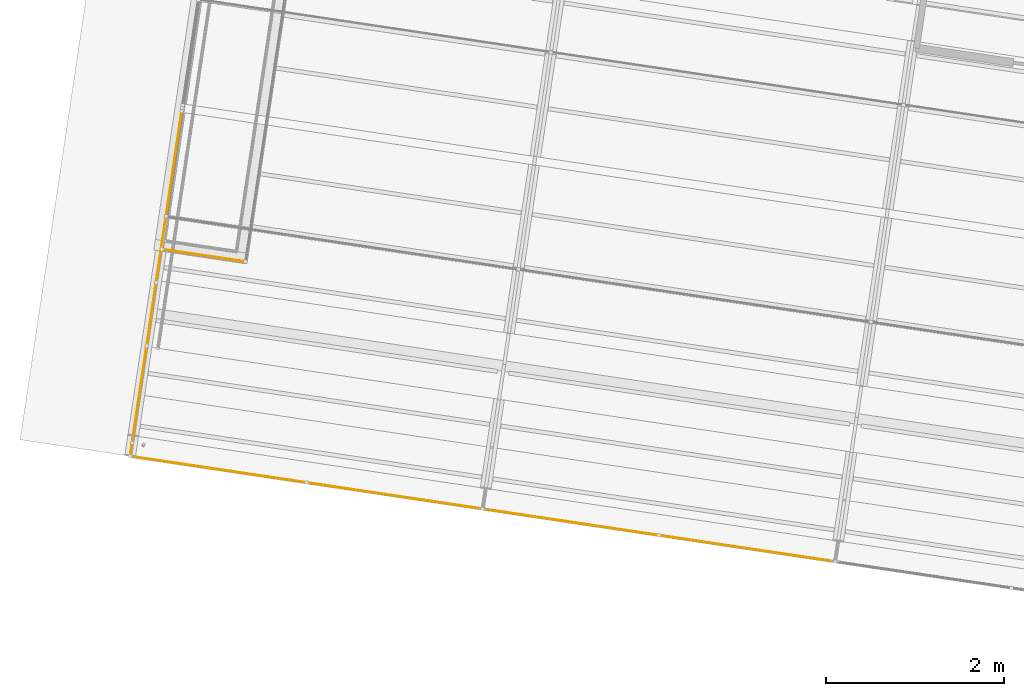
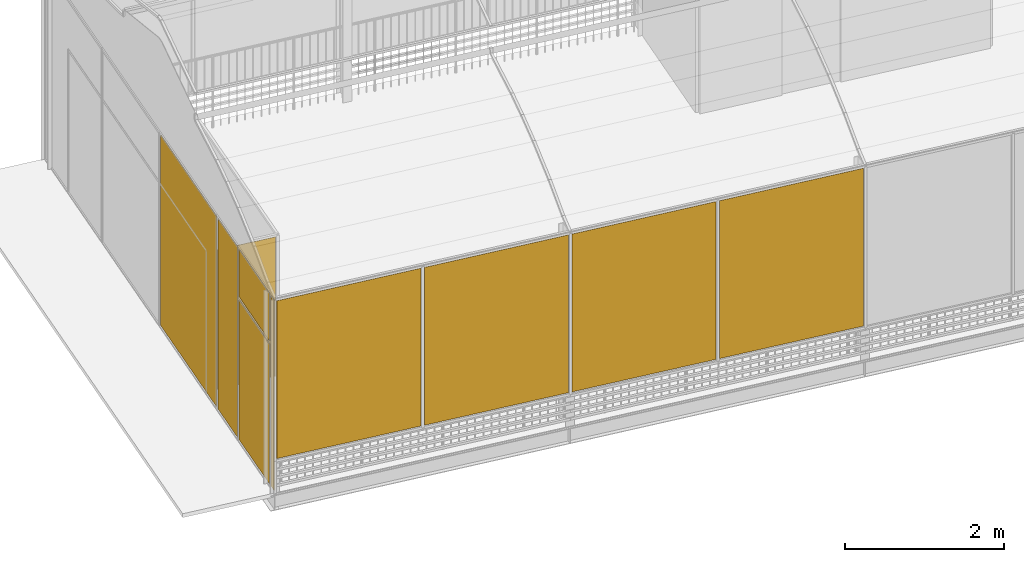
# One storey, part 28 of 34: 9 windows, 1 door.
"""IFC4 building model written with IfcOpenShell, lengths in metres."""

from ifc_helpers import new_model, si_unit, direction, frame, origin_with_axes, place, context, subcontext, project, spatial, polyline, outline, extrude, material, element, save


model = new_model("IFC4")

# Units and contexts
model_context = context("Model", 3, precision=1e-05, world=origin_with_axes(), true_north=direction((0.0, 1.0)))
body_context = subcontext(model_context, "Body", "Model", "MODEL_VIEW")
ifc_project = project(units=[si_unit("AREAUNIT", "SQUARE_METRE"), si_unit("VOLUMEUNIT", "CUBIC_METRE"), si_unit("LENGTHUNIT", "METRE")], contexts=[model_context])

# Site, building, storey
site_placement = place(None, origin_with_axes())
site = spatial("IfcSite", under=ifc_project, at=site_placement, Name="Lares · Rua das Mercês · artigo 4771")
building_placement = place(site_placement, frame((15.0, 9.7, 14.65), z_axis=(0.0, 0.0, 1.0), x_axis=(0.989015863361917, -0.147809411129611, 0.0)))
building = spatial("IfcBuilding", under=site, at=building_placement, Name="Casa Sobreposta")
storey_placement = place(building_placement, frame((0.0, 0.0, 3.24), z_axis=(0.0, 0.0, 1.0), x_axis=(1.0, 0.0, 0.0)))
storey = spatial("IfcBuildingStorey", under=building, at=storey_placement, Name="01 · Jardim de inverno", Elevation=17.89)

# Windows
ifc_material_1 = material(Name="Policarbonato alveolar 16 mm · translúcido", Category="plastic")
window_1_placement = place(storey_placement, frame((0.0, 0.0, 0.525), z_axis=(0.0, 0.0, 1.0), x_axis=(1.0, 0.0, 0.0)))
element("IfcWindow", 1, at=window_1_placement, inside=storey, material=ifc_material_1, Name="Estufa sul 1", OverallHeight=2.43, OverallWidth=1.95, PartitioningType="SINGLE_PANEL", PredefinedType="WINDOW", context=body_context, shape_type="SweptSolid", body=[
    extrude(outline(polyline([(1.975, -1.496), (1.975, -1.504), (0.025, -1.504), (0.025, -1.496), (1.975, -1.496)])), origin_with_axes(), (0.0, 0.0, 1.0), 2.43),
])
window_2_placement = place(storey_placement, frame((0.0, 0.0, 0.525), z_axis=(0.0, 0.0, 1.0), x_axis=(1.0, 0.0, 0.0)))
element("IfcWindow", 2, at=window_2_placement, inside=storey, material=ifc_material_1, Name="Estufa sul 2", OverallHeight=2.43, OverallWidth=1.95, PartitioningType="SINGLE_PANEL", PredefinedType="WINDOW", context=body_context, shape_type="SweptSolid", body=[
    extrude(outline(polyline([(3.975, -1.496), (3.975, -1.504), (2.025, -1.504), (2.025, -1.496), (3.975, -1.496)])), origin_with_axes(), (0.0, 0.0, 1.0), 2.43),
])
window_3_placement = place(storey_placement, frame((0.0, 0.0, 0.525), z_axis=(0.0, 0.0, 1.0), x_axis=(1.0, 0.0, 0.0)))
element("IfcWindow", 3, at=window_3_placement, inside=storey, material=ifc_material_1, Name="Estufa sul 3", OverallHeight=2.43, OverallWidth=1.95, PartitioningType="SINGLE_PANEL", PredefinedType="WINDOW", context=body_context, shape_type="SweptSolid", body=[
    extrude(outline(polyline([(5.975, -1.496), (5.975, -1.504), (4.025, -1.504), (4.025, -1.496), (5.975, -1.496)])), origin_with_axes(), (0.0, 0.0, 1.0), 2.43),
])
window_4_placement = place(storey_placement, frame((0.0, 0.0, 0.525), z_axis=(0.0, 0.0, 1.0), x_axis=(1.0, 0.0, 0.0)))
element("IfcWindow", 4, at=window_4_placement, inside=storey, material=ifc_material_1, Name="Estufa sul 4", OverallHeight=2.43, OverallWidth=1.95, PartitioningType="SINGLE_PANEL", PredefinedType="WINDOW", context=body_context, shape_type="SweptSolid", body=[
    extrude(outline(polyline([(7.975, -1.496), (7.975, -1.504), (6.025, -1.504), (6.025, -1.496), (7.975, -1.496)])), origin_with_axes(), (0.0, 0.0, 1.0), 2.43),
])

# Door
door_placement = place(storey_placement, frame((0.0, 0.0, 0.0249999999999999), z_axis=(0.0, 0.0, 1.0), x_axis=(1.0, 0.0, 0.0)))
element("IfcDoor", 5, at=door_placement, inside=storey, material=ifc_material_1, Name="Varanda · porta de correr oeste", OperationType="SLIDING_TO_LEFT", OverallHeight=2.15, OverallWidth=1.05, PredefinedType="DOOR", context=body_context, shape_type="SweptSolid", body=[
    extrude(outline(polyline([(-0.004, -0.275), (0.004, -0.275), (0.004, -1.325), (-0.004, -1.325), (-0.004, -0.275)])), origin_with_axes(), (0.0, 0.0, 1.0), 2.15),
])

# Windows
window_5_placement = place(storey_placement, frame((0.0, 0.0, 2.225), z_axis=(0.0, 0.0, 1.0), x_axis=(1.0, 0.0, 0.0)))
element("IfcWindow", 6, at=window_5_placement, inside=storey, material=ifc_material_1, Name="Varanda · bandeira da porta", OverallHeight=0.73, OverallWidth=1.05, PartitioningType="SINGLE_PANEL", PredefinedType="WINDOW", context=body_context, shape_type="SweptSolid", body=[
    extrude(outline(polyline([(-0.004, -0.275), (0.004, -0.275), (0.004, -1.325), (-0.004, -1.325), (-0.004, -0.275)])), origin_with_axes(), (0.0, 0.0, 1.0), 0.73),
])
window_6_placement = place(storey_placement, frame((0.0, 0.0, 0.0249999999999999), z_axis=(0.0, 0.0, 1.0), x_axis=(1.0, 0.0, 0.0)))
element("IfcWindow", 7, at=window_6_placement, inside=storey, material=ifc_material_1, Name="Varanda · vidro lateral", OverallHeight=2.93, OverallWidth=0.1, PartitioningType="SINGLE_PANEL", PredefinedType="WINDOW", context=body_context, shape_type="SweptSolid", body=[
    extrude(outline(polyline([(-0.004, -1.375), (0.004, -1.375), (0.004, -1.475), (-0.004, -1.475), (-0.004, -1.375)])), origin_with_axes(), (0.0, 0.0, 1.0), 2.93),
])
window_7_placement = place(storey_placement, frame((0.0, 0.0, 0.0249999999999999), z_axis=(0.0, 0.0, 1.0), x_axis=(1.0, 0.0, 0.0)))
element("IfcWindow", 8, at=window_7_placement, inside=storey, material=ifc_material_1, Name="Varanda · vidro lateral", OverallHeight=2.93, OverallWidth=0.675, PartitioningType="SINGLE_PANEL", PredefinedType="WINDOW", context=body_context, shape_type="SweptSolid", body=[
    extrude(outline(polyline([(-0.004, 0.45), (0.004, 0.45), (0.004, -0.225), (-0.004, -0.225), (-0.004, 0.45)])), origin_with_axes(), (0.0, 0.0, 1.0), 2.93),
])
window_8_placement = place(storey_placement, frame((0.0, 0.0, 0.0249999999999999), z_axis=(0.0, 0.0, 1.0), x_axis=(1.0, 0.0, 0.0)))
element("IfcWindow", 9, at=window_8_placement, inside=storey, material=ifc_material_1, Name="Estufa poente 2", OverallHeight=2.93, OverallWidth=1.925, PartitioningType="SINGLE_PANEL", PredefinedType="WINDOW", context=body_context, shape_type="SweptSolid", body=[
    extrude(outline(polyline([(-0.004, 2.425), (0.004, 2.425), (0.004, 0.5), (-0.004, 0.5), (-0.004, 2.425)])), origin_with_axes(), (0.0, 0.0, 1.0), 2.93),
])
ifc_material_2 = material(Name="Vidro / Normalglas", Category="glass")
window_9_placement = place(storey_placement, frame((0.0, 0.0, 0.0249999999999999), z_axis=(0.0, 0.0, 1.0), x_axis=(1.0, 0.0, 0.0)))
element("IfcWindow", 10, at=window_9_placement, inside=storey, material=ifc_material_2, Name="Caixa térmica 1 · south", OverallHeight=2.15, OverallWidth=0.9, PartitioningType="SINGLE_PANEL", PredefinedType="WINDOW", context=body_context, shape_type="SweptSolid", body=[
    extrude(outline(polyline([(0.935, 0.854), (0.935, 0.846), (0.035, 0.846), (0.035, 0.854), (0.935, 0.854)])), origin_with_axes(), (0.0, 0.0, 1.0), 2.15),
])

save(model, "model.ifc")
